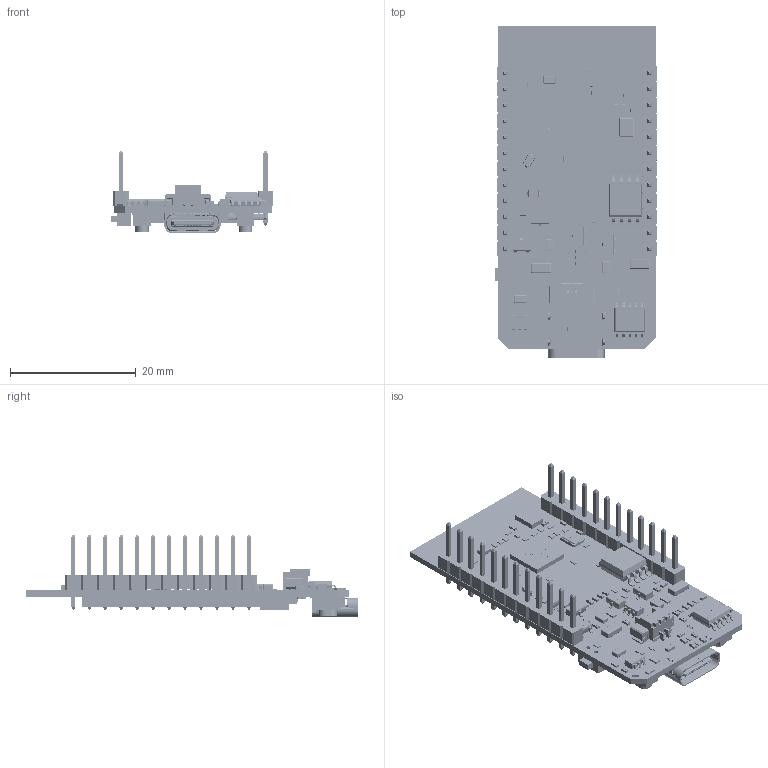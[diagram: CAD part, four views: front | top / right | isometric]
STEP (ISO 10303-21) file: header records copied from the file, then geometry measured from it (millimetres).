
FILE_DESCRIPTION(/* description */ (''),/* implementation_level */ '2;1');
FILE_NAME(/* name */ 'C:/Users/lenovo/Downloads/ttgo t display.step',/* time_stamp */ '2022-03-29T12:02:14-04:00',/* author */ (''),/* organization */ (''),/* preprocessor_version */ 'ST-DEVELOPER v18.1',/* originating_system */ 'Autodesk Translation Framework v10.13.0.1454',/* authorisation */ '');
FILE_SCHEMA (('AUTOMOTIVE_DESIGN { 1 0 10303 214 3 1 1 }'));
Products named in the file (145): nano; T-Display; Board; RY; R52; D6; C42; R20; C49; C32; U2; SW3dPS-SOIC8_(ATTINY12); U7; D1; SOD323; L2; L0402; C24; C23; C22; C21; C20; C18; C17; C14; C10; C9; C8; C4; C2; C1; U3; ESP32; U1; OSC_3225-4 (1); OSC_3225-4; LOGO?0.15; R33; R31; L0603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
Assembly tree (242 placements, depth 5):
  nano
    T-Display
      Board
      RY
        User_Library-RES_1005-0402
      R52
        User_Library-RES_1005-0402
      D6
        SOD323
      C42
        C1206
      R20
        User_Library-RES_1005-0402
      C49
        0402_SMD_Capacitor
      C32
        0402_SMD_Capacitor
      U2
        SW3dPS-SOIC8_(ATTINY12)
      U7
        User_Library-SOT23-5
          User_Library-SOT23-5_SOT23-5_Connector_Default  x5
          User_Library-SOT23-5_SOT23-5_Body_Default
      D1
        SOD323
      L2
        L0402
      C24
        0402_SMD_Capacitor
      C23
        0402_SMD_Capacitor
      C22
        0402_SMD_Capacitor
      C21
        0402_SMD_Capacitor
      C20
        0402_SMD_Capacitor
      C18
        0402_SMD_Capacitor
      C17
        0402_SMD_Capacitor
      C14
        0402_SMD_Capacitor
      C10
        0402_SMD_Capacitor
      C9
        0402_SMD_Capacitor
      C8
        0402_SMD_Capacitor
      C4
        0402_SMD_Capacitor
      C2
        0402_SMD_Capacitor
      C1
        0402_SMD_Capacitor
      U3
        ESP32
      U1
        OSC_3225-4 (1)
          OSC_3225-4
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Bounding box: 25.93 x 52.84 x 13.16 mm (x, y, z)
Volume: 3023.2 mm3; surface area: 8240.6 mm2
Topology: 338 solids, 343 shells, 13457 faces, 33823 edges, 21398 vertices
Faces by surface type: plane 8054, bspline 3065, cylinder 1753, sphere 430, torus 110, cone 45
Full cylindrical faces by diameter (mm): 0.007 x1, 0.013 x1, 0.015 x1, 0.06 x3, 0.1 x3, 0.12 x3, 0.25 x1, 0.39 x1, 0.45 x1, 0.5 x4, 0.65 x1, 0.7 x2, 0.75 x1, 0.78 x1, 0.82 x4, 0.9 x1, 1.1 x23, 2 x1
Entity records: 186704 total; most frequent: CARTESIAN_POINT 68197, ORIENTED_EDGE 24651, DIRECTION 21223, EDGE_CURVE 12361, LINE 9203, VECTOR 9203, VERTEX_POINT 7931, AXIS2_PLACEMENT_3D 6010
